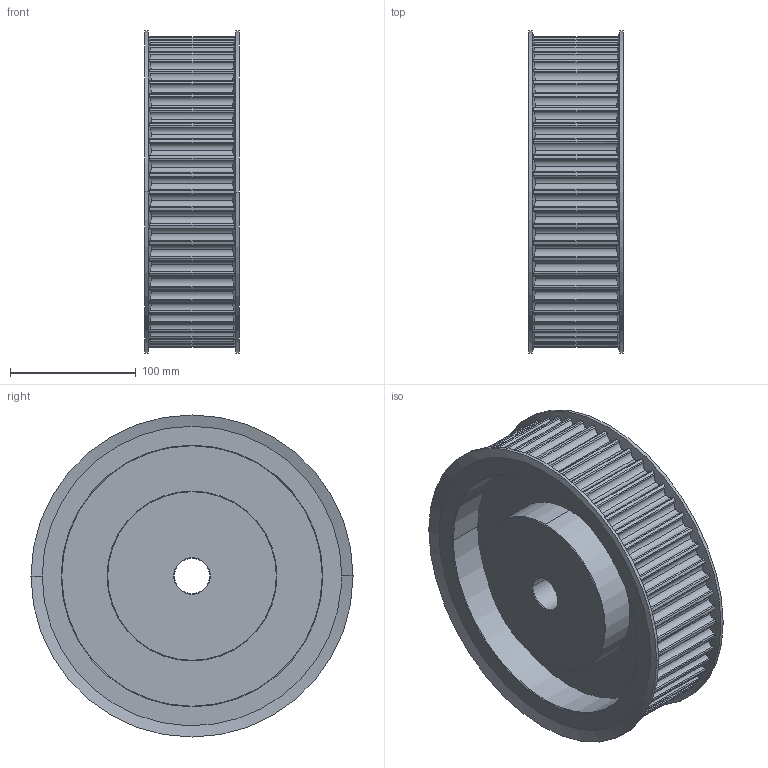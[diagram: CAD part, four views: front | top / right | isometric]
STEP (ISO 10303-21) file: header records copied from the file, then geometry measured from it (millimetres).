
FILE_DESCRIPTION(('STEP AP203'),'1');
FILE_NAME('56_-_14_m_55.stp','2022-04-28T07:46:40',('TraceParts'),('TraceParts S.A.'),'Spatial InterOp 3D',' ',' ');
FILE_SCHEMA(('CONFIG_CONTROL_DESIGN'));
Length unit declared in the file: millimetre
Products named in the file (1): 1
Bounding box: 74.82 x 256 x 256 mm (x, y, z)
Volume: 2107589 mm3; surface area: 251361.7 mm2
Topology: 1 solids, 1 shells, 432 faces, 1266 edges, 840 vertices
Faces by surface type: cylinder 294, plane 118, cone 20
Entity records: 18598 total; most frequent: CARTESIAN_POINT 7467, ORIENTED_EDGE 2532, DIRECTION 2188, EDGE_CURVE 1266, AXIS2_PLACEMENT_3D 937, VERTEX_POINT 840, CIRCLE 504, B_SPLINE_CURVE_WITH_KNOTS 448
